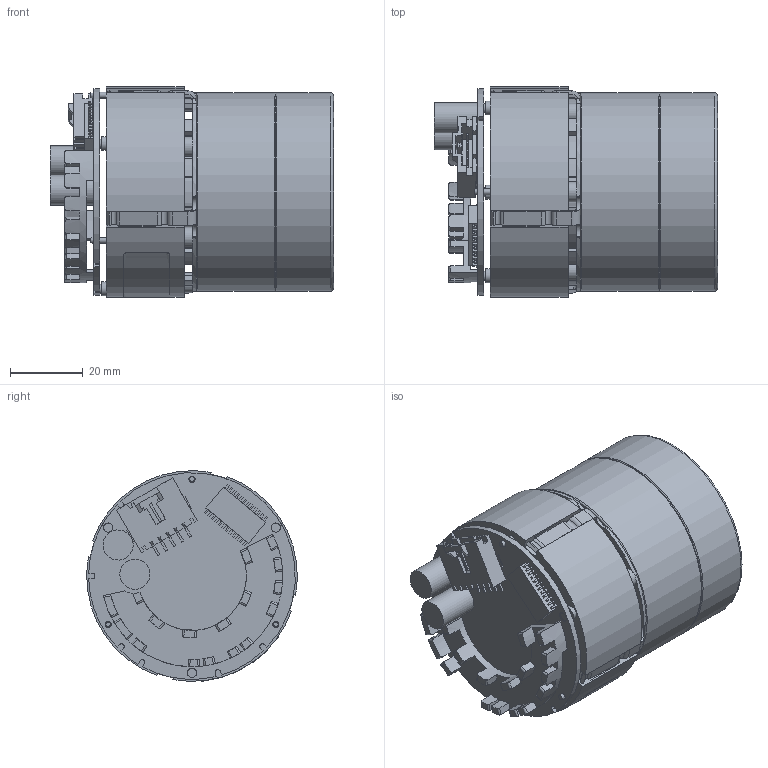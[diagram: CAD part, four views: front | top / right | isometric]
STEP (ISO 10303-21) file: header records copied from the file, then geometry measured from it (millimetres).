
FILE_DESCRIPTION (( 'STEP AP214' ), '1' );
FILE_NAME ('Silencer Smart 3000 - BLDC Motor.STEP', '2020-04-22T18:56:30', ( '' ), ( '' ), 'SwSTEP 2.0', 'SolidWorks 2019', '' );
FILE_SCHEMA (( 'AUTOMOTIVE_DESIGN' ));
Length unit declared in the file: millimetre
Products named in the file (23): PD02-EP-00 1-4 NPT; PD01-SC-00; PD21-PU-00; Lam^PD02-MA-00B; PCB^PD02-MA-00B; Label^PD02-MA-00B; Silencer Smart 3000 - BLDC Motor; HS^PD02-MA-00B; PD02-MA-00B; Cap^PD02-MA-00B; PD21-BB-00; PD02-CU-00; MB0114; Connector^PD02-MA-00B; Pins^PD02-MA-00B; PD21-BO-00; Mol^PD02-MA-00B; Processor^PD02-MA-00B
Assembly tree (25 placements, depth 4):
  Silencer Smart 3000 - BLDC Motor
    PD02-MA-00B
      Lam^PD02-MA-00B
      Mol^PD02-MA-00B
      PCB^PD02-MA-00B
      Pins^PD02-MA-00B  x3
      Label^PD02-MA-00B
      HS^PD02-MA-00B
      Cap^PD02-MA-00B  x2
      Connector^PD02-MA-00B
      Processor^PD02-MA-00B
    PD21-PU-00
      PD01-SC-00
      PD02-CU-00
      PD21-BO-00
        PD21-BB-00
      PD02-EP-00 1-4 NPT
      PD01-SC-00
      PD01-SC-00
      PD01-SC-00
      PD01-SC-00
      PD01-SC-00
      MB0114
Bounding box: 78.05 x 58.08 x 58.08 mm (x, y, z)
Volume: 131878.2 mm3; surface area: 68172.5 mm2
Topology: 22 solids, 22 shells, 1500 faces, 4172 edges, 2776 vertices
Faces by surface type: plane 970, cylinder 486, torus 29, cone 15
Full cylindrical faces by diameter (mm): 1.6 x18, 1.7 x3, 2.4 x6, 2.5 x3, 2.55 x3, 3.2 x2, 3.3 x8, 3.8 x3, 5.5 x6, 6 x2, 8.3 x2, 11.125 x2, 26 x1, 36.1 x1, 38 x1, 42.7 x2, 49.1 x1, 54.8 x2
Entity records: 51477 total; most frequent: CARTESIAN_POINT 8887, ORIENTED_EDGE 8008, DIRECTION 7896, EDGE_CURVE 4004, VECTOR 2912, LINE 2912, VERTEX_POINT 2719, AXIS2_PLACEMENT_3D 2492
